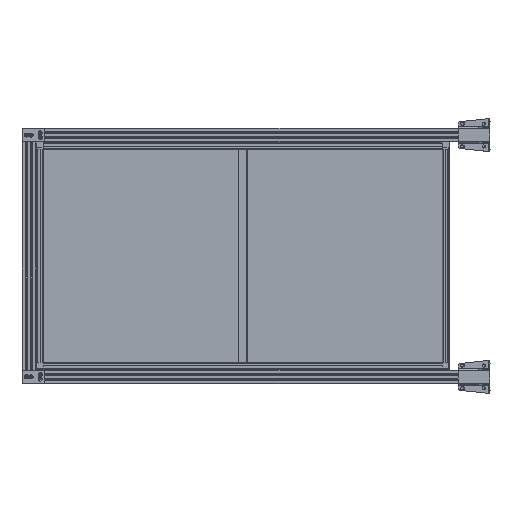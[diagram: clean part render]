
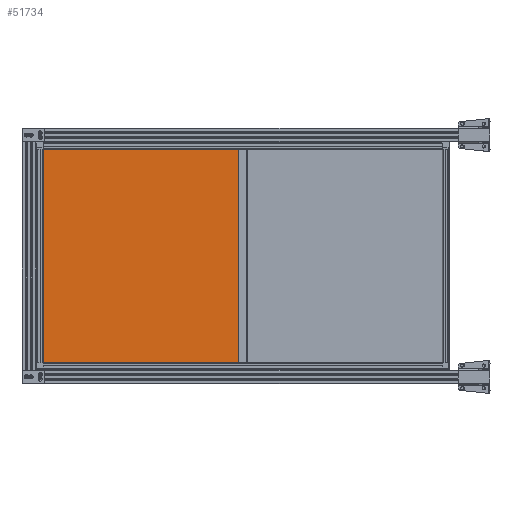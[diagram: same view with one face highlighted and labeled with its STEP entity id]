
A CAD part, top view. The second image highlights one B-rep face of the part: STEP entity #51734.
In plain terms, the highlighted planar face has unit normal (0, 0, 1).
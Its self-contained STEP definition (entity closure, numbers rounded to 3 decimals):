
#4279=FACE_OUTER_BOUND('',#7289,.T.);
#7289=EDGE_LOOP('',(#33936,#33937,#33938,#33939));
#10511=LINE('',#76305,#15692);
#10515=LINE('',#76313,#15696);
#10518=LINE('',#76319,#15699);
#10521=LINE('',#76324,#15702);
#15692=VECTOR('',#60224,10.);
#15696=VECTOR('',#60230,10.);
#15699=VECTOR('',#60235,10.);
#15702=VECTOR('',#60240,10.);
#20873=VERTEX_POINT('',#76303);
#20874=VERTEX_POINT('',#76304);
#20877=VERTEX_POINT('',#76312);
#20879=VERTEX_POINT('',#76318);
#25916=EDGE_CURVE('',#20873,#20874,#10511,.T.);
#25920=EDGE_CURVE('',#20874,#20877,#10515,.T.);
#25923=EDGE_CURVE('',#20877,#20879,#10518,.T.);
#25926=EDGE_CURVE('',#20879,#20873,#10521,.T.);
#33936=ORIENTED_EDGE('',*,*,#25916,.F.);
#33937=ORIENTED_EDGE('',*,*,#25926,.F.);
#33938=ORIENTED_EDGE('',*,*,#25923,.F.);
#33939=ORIENTED_EDGE('',*,*,#25920,.F.);
#49932=PLANE('',#54775);
#51734=ADVANCED_FACE('',(#4279),#49932,.T.);
#54775=AXIS2_PLACEMENT_3D('',#76326,#60242,#60243);
#60224=DIRECTION('',(0.,1.,0.));
#60230=DIRECTION('',(1.,0.,0.));
#60235=DIRECTION('',(0.,-1.,0.));
#60240=DIRECTION('',(-1.,0.,0.));
#60242=DIRECTION('center_axis',(0.,0.,
1.));
#60243=DIRECTION('ref_axis',(1.,0.,0.));
#76303=CARTESIAN_POINT('',(-1006.435,-223.744,-433.919));
#76304=CARTESIAN_POINT('',(-1006.435,731.256,-433.919));
#76305=CARTESIAN_POINT('',(-1006.435,-223.744,-433.919));
#76312=CARTESIAN_POINT('',(-131.435,731.256,-433.919));
#76313=CARTESIAN_POINT('',(-1006.435,731.256,-433.919));
#76318=CARTESIAN_POINT('',(-131.435,-223.744,-433.919));
#76319=CARTESIAN_POINT('',(-131.435,731.256,-433.919));
#76324=CARTESIAN_POINT('',(-131.435,-223.744,-433.919));
#76326=CARTESIAN_POINT('Origin',(-568.935,253.756,-433.919));
